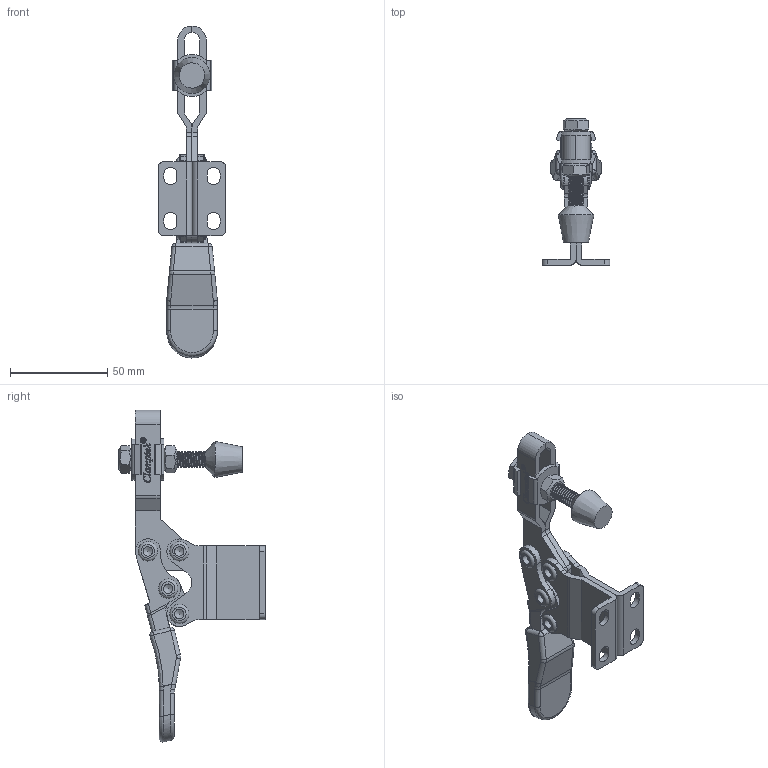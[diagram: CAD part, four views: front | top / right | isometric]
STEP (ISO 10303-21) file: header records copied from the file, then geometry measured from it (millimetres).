
FILE_DESCRIPTION(/* description */ ('STEP AP203'),/* implementation_level */ '2;1');
FILE_NAME(/* name */ 'E:\STRONA\Horizontal toggle clamp\CH-225-DHB\CH-225-DHB_ZAMKNIETY.stp',/* time_stamp */ '2019-01-15T14:54:34+01:00',/* author */ ('Admin'),/* organization */ ('·L?¤¤?'),/* preprocessor_version */ 'ST-DEVELOPER v17.2',/* originating_system */ 'Autodesk Inventor 2019',/* authorisation */ '');
FILE_SCHEMA (('AUTOMOTIVE_DESIGN { 1 0 10303 214 3 1 1 }'));
Length unit declared in the file: millimetre
Products named in the file (11): CH-225-DHB_ZAMKNIETY; CH-FC-56212___; 225-D-04___; 225-DHB-01___; FW-516___; 56212-01___; 225-D-03___; 225-D-03____1; 1___; 225-DHB-02___; 225-D-05___
Assembly tree (16 placements, depth 3):
  CH-225-DHB_ZAMKNIETY
    FW-516___  x2
    225-D-04___  x2
    CH-FC-56212___
    225-DHB-01___
    225-D-05___  x4
    56212-01___  x2
    225-D-03___
      225-D-03____1
      1___
    225-DHB-02___
Bounding box: 35 x 75.29 x 171.12 mm (x, y, z)
Volume: 46994.9 mm3; surface area: 41041 mm2
Topology: 17 solids, 17 shells, 794 faces, 2179 edges, 1453 vertices
Faces by surface type: plane 357, bspline 202, cylinder 187, torus 20, cone 16, sphere 12
Full cylindrical faces by diameter (mm): 2 x1, 3 x1, 4.833 x4, 6.3 x10, 6.4 x16, 7.92 x32, 8.1 x2, 10 x8
Entity records: 51659 total; most frequent: CARTESIAN_POINT 34224, ORIENTED_EDGE 3924, DIRECTION 2902, EDGE_CURVE 1962, VERTEX_POINT 1302, LINE 1120, VECTOR 1120, AXIS2_PLACEMENT_3D 891
